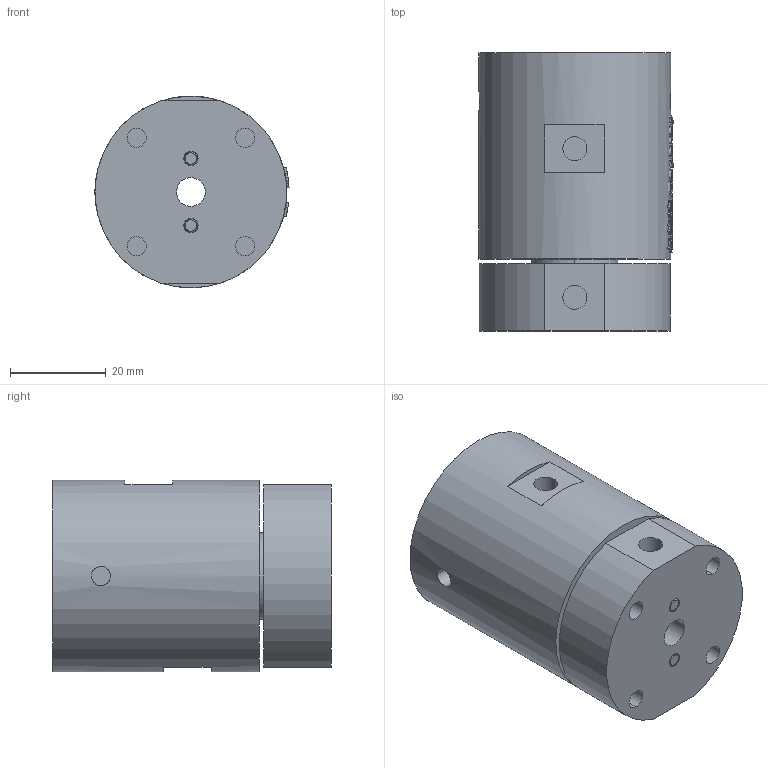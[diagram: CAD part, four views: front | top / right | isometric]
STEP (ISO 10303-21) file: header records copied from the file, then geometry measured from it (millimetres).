
FILE_DESCRIPTION(/* description */ (''),/* implementation_level */ '2;1');
FILE_NAME(/* name */ 'HQ02005_stp.stp',/* time_stamp */ '2025-01-19T16:46:42+08:00',/* author */ (''),/* organization */ (''),/* preprocessor_version */ 'ST-DEVELOPER v16.7',/* originating_system */ 'SIEMENS PLM Software NX 12.0',/* authorisation */ '');
FILE_SCHEMA (('AUTOMOTIVE_DESIGN { 1 0 10303 214 3 1 1 1 }'));
Length unit declared in the file: millimetre
Products named in the file (1): HX0590E89F62btw9
Bounding box: 40.48 x 58 x 40 mm (x, y, z)
Volume: 67908.4 mm3; surface area: 15390.8 mm2
Topology: 1 solids, 1 shells, 414 faces, 1032 edges, 692 vertices
Faces by surface type: plane 222, extrusion 88, cylinder 71, bspline 29, torus 4
Full cylindrical faces by diameter (mm): 40 x1
Entity records: 27760 total; most frequent: CARTESIAN_POINT 18886, ORIENTED_EDGE 2022, DIRECTION 1360, EDGE_CURVE 1011, VERTEX_POINT 690, B_SPLINE_CURVE_WITH_KNOTS 671, AXIS2_PLACEMENT_3D 546, EDGE_LOOP 507
